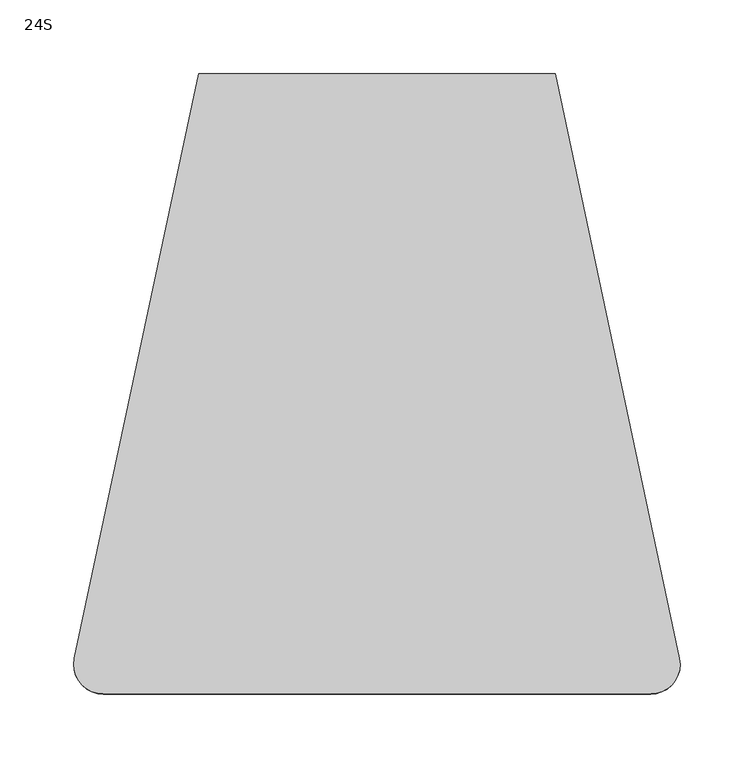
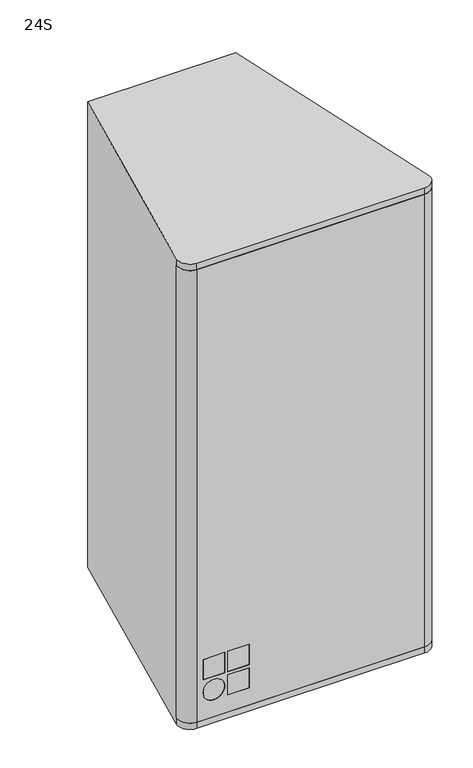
"""IFC4 building model written with IfcOpenShell, lengths in millimetres: proxy geometry, d&b xS-Series 24S Point Source : 24S."""

from ifc_helpers import new_model, si_unit, point, frame, frame_2d, origin, place, context, project, spatial, polyline, circle_curve, trimmed, segment, composite_curve, outline, extrude, source, transform, mapped, element, save
from ifc_brep_helpers import plane_surface, cylinder_surface, revolved_surface, advanced_brep


def proxy_24s_2d7f25b9(model_context):
    return source(origin(), model_context, "Body", "SolidModel", [
        extrude(outline(composite_curve([segment(polyline([(-199.714173, -185.8417662), (199.714173, -185.8417662)]), True, "CONTINUOUS"), segment(trimmed(circle_curve(frame_2d((185.3020569, -190.0)), 15.0), [point((199.714173, -185.8417662))], [point((185.3020569, -205.0))], False, "CARTESIAN"), True, "CONTINUOUS"), segment(polyline([(185.3020569, -205.0), (-185.3020569, -205.0)]), True, "CONTINUOUS"), segment(trimmed(circle_curve(frame_2d((-185.3020569, -190.0)), 15.0), [point((-185.3020569, -205.0))], [point((-199.714173, -185.8417662))], False, "CARTESIAN"), True, "CONTINUOUS")], self_intersect=False)), frame((0.0, 0.0, -389.0), z_axis=(0.0, 0.0, 1.0), x_axis=(1.0, 0.0, 0.0)), (0.0, 0.0, 1.0), 778.0),
        advanced_brep(
        [(-140.3020569, -210.0, -285.0), (-140.3020569, -205.0, -285.0), (-140.3020569, -205.0, -320.0), (-140.3020569, -210.0, -320.0), (-175.3020569, -205.0, -320.0), (-175.3020569, -210.0, -320.0), (-175.3020569, -205.0, -285.0), (-175.3020569, -210.0, -285.0), (-100.3020569, -210.0, -285.0), (-100.3020569, -205.0, -285.0), (-100.3020569, -205.0, -320.0), (-100.3020569, -210.0, -320.0), (-135.3020569, -205.0, -320.0), (-135.3020569, -210.0, -320.0), (-135.3020569, -205.0, -285.0), (-135.3020569, -210.0, -285.0), (-100.3020569, -210.0, -325.0), (-100.3020569, -205.0, -325.0), (-100.3020569, -205.0, -360.0), (-100.3020569, -210.0, -360.0), (-135.3020569, -205.0, -360.0), (-135.3020569, -210.0, -360.0), (-135.3020569, -205.0, -325.0), (-135.3020569, -210.0, -325.0), (-157.8020569, -210.0, -360.0), (-157.8020569, -205.0, -360.0), (-157.8020569, -205.0, -325.0), (-157.8020569, -210.0, -325.0), (185.3020569, -210.0, 389.0), (204.8650089, -185.8417662, 389.0), (199.714173, -185.8417662, 389.0), (185.3020569, -205.0, 389.0), (-185.3020569, -205.0, 389.0), (-199.714173, -185.8417662, 389.0), (-204.8650089, -185.8417662, 389.0), (-185.3020569, -210.0, 389.0), (185.3020569, -210.0, -389.0), (-185.3020569, -210.0, -389.0), (-204.8650089, -185.8417662, -389.0), (-199.714173, -185.8417662, -389.0), (-185.3020569, -205.0, -389.0), (185.3020569, -205.0, -389.0), (199.714173, -185.8417662, -389.0), (204.8650089, -185.8417662, -389.0)],
        [
            (0, 1),
            (1, 2),
            (2, 3),
            (3, 0),
            (2, 4),
            (4, 5),
            (5, 3),
            (4, 6),
            (6, 7),
            (7, 5),
            (0, 7),
            (6, 1),
            (8, 9),
            (9, 10),
            (10, 11),
            (11, 8),
            (10, 12),
            (12, 13),
            (13, 11),
            (12, 14),
            (14, 15),
            (15, 13),
            (8, 15),
            (14, 9),
            (16, 17),
            (17, 18),
            (18, 19),
            (19, 16),
            (18, 20),
            (20, 21),
            (21, 19),
            (20, 22),
            (22, 23),
            (23, 21),
            (16, 23),
            (22, 17),
            (24, 25),
            (25, 26, circle_curve(frame((-157.8020569, -205.0, -342.5), z_axis=(0.0, 1.0, 0.0), x_axis=(0.0, 0.0, 1.0)), 17.5)),
            (26, 27),
            (27, 24, circle_curve(frame((-157.8020569, -210.0, -342.5), z_axis=(0.0, -1.0, 0.0), x_axis=(0.0, 0.0, 1.0)), 17.5)),
            (24, 27, circle_curve(frame((-157.8020569, -210.0, -342.5), z_axis=(0.0, -1.0, 0.0), x_axis=(0.0, 0.0, 1.0)), 17.5)),
            (26, 25, circle_curve(frame((-157.8020569, -205.0, -342.5), z_axis=(0.0, 1.0, 0.0), x_axis=(0.0, 0.0, 1.0)), 17.5)),
            (28, 29, circle_curve(frame((185.3020569, -190.0, 389.0), z_axis=(0.0, 0.0, 1.0), x_axis=(0.0, -1.0, 0.0)), 20.0)),
            (29, 30),
            (30, 31, circle_curve(frame((185.3020569, -190.0, 389.0), z_axis=(0.0, 0.0, -1.0), x_axis=(0.0, -1.0, 0.0)), 15.0)),
            (31, 32),
            (32, 33, circle_curve(frame((-185.3020569, -190.0, 389.0), z_axis=(0.0, 0.0, -1.0), x_axis=(0.0, -1.0, 0.0)), 15.0)),
            (33, 34),
            (34, 35, circle_curve(frame((-185.3020569, -190.0, 389.0), z_axis=(0.0, 0.0, 1.0), x_axis=(0.0, -1.0, 0.0)), 20.0)),
            (35, 28),
            (36, 37),
            (37, 38, circle_curve(frame((-185.3020569, -190.0, -389.0), z_axis=(0.0, 0.0, -1.0), x_axis=(0.0, -1.0, 0.0)), 20.0)),
            (38, 39),
            (39, 40, circle_curve(frame((-185.3020569, -190.0, -389.0), z_axis=(0.0, 0.0, 1.0), x_axis=(0.0, -1.0, 0.0)), 15.0)),
            (40, 41),
            (41, 42, circle_curve(frame((185.3020569, -190.0, -389.0), z_axis=(0.0, 0.0, 1.0), x_axis=(0.0, -1.0, 0.0)), 15.0)),
            (42, 43),
            (43, 36, circle_curve(frame((185.3020569, -190.0, -389.0), z_axis=(0.0, 0.0, -1.0), x_axis=(0.0, -1.0, 0.0)), 20.0)),
            (28, 36),
            (43, 29),
            (42, 30),
            (41, 31),
            (40, 32),
            (39, 33),
            (38, 34),
            (37, 35),
        ],
        [
            plane_surface(frame((-140.3020569, -210.0, -320.0), z_axis=(-1.0, 0.0, 0.0), x_axis=(0.0, 1.0, 0.0))),
            plane_surface(frame((-175.3020569, -210.0, -320.0), z_axis=(0.0, 0.0, 1.0), x_axis=(0.0, 1.0, 0.0))),
            plane_surface(frame((-175.3020569, -210.0, -285.0), z_axis=(1.0, 0.0, 0.0), x_axis=(0.0, 1.0, 0.0))),
            plane_surface(frame((-140.3020569, -210.0, -285.0), z_axis=(0.0, 0.0, -1.0), x_axis=(0.0, 1.0, 0.0))),
            plane_surface(frame((-100.3020569, -210.0, -320.0), z_axis=(-1.0, 0.0, 0.0), x_axis=(0.0, 1.0, 0.0))),
            plane_surface(frame((-135.3020569, -210.0, -320.0), z_axis=(0.0, 0.0, 1.0), x_axis=(0.0, 1.0, 0.0))),
            plane_surface(frame((-135.3020569, -210.0, -285.0), z_axis=(1.0, 0.0, 0.0), x_axis=(0.0, 1.0, 0.0))),
            plane_surface(frame((-100.3020569, -210.0, -285.0), z_axis=(0.0, 0.0, -1.0), x_axis=(0.0, 1.0, 0.0))),
            plane_surface(frame((-100.3020569, -210.0, -360.0), z_axis=(-1.0, 0.0, 0.0), x_axis=(0.0, 1.0, 0.0))),
            plane_surface(frame((-135.3020569, -210.0, -360.0), z_axis=(0.0, 0.0, 1.0), x_axis=(0.0, 1.0, 0.0))),
            plane_surface(frame((-135.3020569, -210.0, -325.0), z_axis=(1.0, 0.0, 0.0), x_axis=(0.0, 1.0, 0.0))),
            plane_surface(frame((-100.3020569, -210.0, -325.0), z_axis=(0.0, 0.0, -1.0), x_axis=(0.0, 1.0, 0.0))),
            revolved_surface(polyline([(-157.8020569, -210.0, -325.0), (-157.8020569, -205.0, -325.0)]), (-157.8020569, -149.7477083, -342.5), (0.0, -1.0, 0.0)),
            plane_surface(frame((185.3020569, -210.0, 389.0), z_axis=(0.0, 0.0, 1.0), x_axis=(1.0, 0.0, 0.0))),
            plane_surface(frame((185.3020569, -210.0, -389.0), z_axis=(0.0, 0.0, -1.0), x_axis=(-1.0, 0.0, 0.0))),
            cylinder_surface(frame((185.3020569, -190.0, -389.0), z_axis=(0.0, 0.0, 1.0), x_axis=(0.0, -1.0, 0.0)), 20.0),
            plane_surface(frame((204.8650089, -185.8417662, 389.0), z_axis=(0.0, 1.0, 0.0), x_axis=(0.0, 0.0, -1.0))),
            revolved_surface(polyline([(185.3020569, -205.0, -389.0), (185.3020569, -205.0, 389.0)]), (185.3020569, -190.0, -389.0), (0.0, 0.0, -1.0)),
            plane_surface(frame((185.3020569, -205.0, 389.0), z_axis=(0.0, 1.0, 0.0), x_axis=(0.0, 0.0, -1.0))),
            revolved_surface(polyline([(-185.3020569, -205.0, -389.0), (-185.3020569, -205.0, 389.0)]), (-185.3020569, -190.0, -389.0), (0.0, 0.0, -1.0)),
            plane_surface(frame((-199.714173, -185.8417662, 389.0), z_axis=(0.0, 1.0, 0.0), x_axis=(0.0, 0.0, -1.0))),
            cylinder_surface(frame((-185.3020569, -190.0, -389.0), z_axis=(0.0, 0.0, 1.0), x_axis=(0.0, -1.0, 0.0)), 20.0),
            plane_surface(frame((-185.3020569, -210.0, 389.0), z_axis=(0.0, -1.0, 0.0), x_axis=(0.0, 0.0, -1.0))),
        ],
        [
            (0, [[1, 2, 3, 4]]),
            (1, [[-3, 5, 6, 7]]),
            (2, [[-6, 8, 9, 10]]),
            (3, [[-1, 11, -9, 12]]),
            (4, [[13, 14, 15, 16]]),
            (5, [[-15, 17, 18, 19]]),
            (6, [[-18, 20, 21, 22]]),
            (7, [[-13, 23, -21, 24]]),
            (8, [[25, 26, 27, 28]]),
            (9, [[-27, 29, 30, 31]]),
            (10, [[-30, 32, 33, 34]]),
            (11, [[-25, 35, -33, 36]]),
            (12, [[37, 38, 39, 40]]),
            (12, [[-37, 41, -39, 42]]),
            (13, [[43, 44, 45, 46, 47, 48, 49, 50]]),
            (14, [[51, 52, 53, 54, 55, 56, 57, 58]]),
            (15, [[-43, 59, -58, 60]]),
            (16, [[-44, -60, -57, 61]]),
            (17, [[-45, -61, -56, 62]]),
            (18, [[-46, -62, -55, 63], [-2, -12, -8, -5], [-14, -24, -20, -17], [-26, -36, -32, -29], [-38, -42]]),
            (19, [[-47, -63, -54, 64]]),
            (20, [[-48, -64, -53, 65]]),
            (21, [[-49, -65, -52, 66]]),
            (22, [[-50, -66, -51, -59], [-4, -7, -10, -11], [-16, -19, -22, -23], [-28, -31, -34, -35], [-40, -41]]),
        ],
    ),
        extrude(outline(polyline([(-140.3020569, -210.0), (-175.3020569, -210.0), (-175.3020569, -205.0), (-140.3020569, -205.0), (-140.3020569, -210.0)])), frame((0.0, 0.0, -320.0), z_axis=(0.0, 0.0, 1.0), x_axis=(1.0, 0.0, 0.0)), (0.0, 0.0, 1.0), 35.0),
        extrude(outline(polyline([(-100.3020569, -210.0), (-135.3020569, -210.0), (-135.3020569, -205.0), (-100.3020569, -205.0), (-100.3020569, -210.0)])), frame((0.0, 0.0, -320.0), z_axis=(0.0, 0.0, 1.0), x_axis=(1.0, 0.0, 0.0)), (0.0, 0.0, 1.0), 35.0),
        extrude(outline(polyline([(-100.3020569, -210.0), (-135.3020569, -210.0), (-135.3020569, -205.0), (-100.3020569, -205.0), (-100.3020569, -210.0)])), frame((0.0, 0.0, -360.0), z_axis=(0.0, 0.0, 1.0), x_axis=(1.0, 0.0, 0.0)), (0.0, 0.0, 1.0), 35.0),
        extrude(outline(composite_curve([segment(trimmed(circle_curve(frame_2d((-342.5, -157.8020569)), 17.5), [point((-360.0, -157.8020569))], [point((-325.0, -157.8020569))], False, "CARTESIAN"), True, "CONTINUOUS"), segment(trimmed(circle_curve(frame_2d((-342.5, -157.8020569)), 17.5), [point((-325.0, -157.8020569))], [point((-360.0, -157.8020569))], False, "CARTESIAN"), True, "CONTINUOUS")], self_intersect=False)), frame((0.0, -210.0, 0.0), z_axis=(0.0, 1.0, 0.0), x_axis=(0.0, 0.0, 1.0)), (0.0, 0.0, 1.0), 5.0),
        advanced_brep(
        [(120.7262441, 210.0, -400.0), (204.8650089, -185.8417662, -400.0), (185.3020569, -210.0, -400.0), (-185.3020569, -210.0, -400.0), (-204.8650089, -185.8417662, -400.0), (-120.7262441, 210.0, -400.0), (120.7262441, 210.0, 400.0), (-120.7262441, 210.0, 400.0), (-204.8650089, -185.8417662, 400.0), (-185.3020569, -210.0, 400.0), (185.3020569, -210.0, 400.0), (204.8650089, -185.8417662, 400.0), (-35.0, 207.0, 171.5), (-26.0, 207.0, 180.5), (26.0, 207.0, 180.5), (35.0, 207.0, 171.5), (35.0, 207.0, 78.5), (26.0, 207.0, 69.5), (-26.0, 207.0, 69.5), (-35.0, 207.0, 78.5), (-25.9695321, 207.0, 86.5), (-13.9695321, 207.0, 74.5), (13.9695321, 207.0, 74.5), (25.9695321, 207.0, 86.5), (25.9695321, 207.0, 130.5), (-25.9695321, 207.0, 130.5), (-35.0, 210.0, 171.5), (-26.0, 210.0, 180.5), (26.0, 210.0, 180.5), (35.0, 210.0, 171.5), (35.0, 210.0, 78.5), (26.0, 210.0, 69.5), (-26.0, 210.0, 69.5), (-35.0, 210.0, 78.5), (-13.9695321, 191.0, 74.5), (-25.9695321, 191.0, 86.5), (-25.9695321, 191.0, 130.5), (25.9695321, 191.0, 130.5), (25.9695321, 191.0, 86.5), (13.9695321, 191.0, 74.5), (185.3020569, -210.0, 389.0), (-185.3020569, -210.0, 389.0), (-204.8650089, -185.8417662, 389.0), (204.8650089, -185.8417662, 389.0), (204.8650089, -185.8417662, -389.0), (-204.8650089, -185.8417662, -389.0), (185.3020569, -210.0, -389.0), (-185.3020569, -210.0, -389.0)],
        [
            (0, 1),
            (1, 2, circle_curve(frame((185.3020569, -190.0, -400.0), z_axis=(0.0, 0.0, -1.0), x_axis=(0.0, -1.0, 0.0)), 20.0)),
            (2, 3),
            (3, 4, circle_curve(frame((-185.3020569, -190.0, -400.0), z_axis=(0.0, 0.0, -1.0), x_axis=(0.0, -1.0, 0.0)), 20.0)),
            (4, 5),
            (5, 0),
            (6, 7),
            (7, 8),
            (8, 9, circle_curve(frame((-185.3020569, -190.0, 400.0), z_axis=(0.0, 0.0, 1.0), x_axis=(0.0, -1.0, 0.0)), 20.0)),
            (9, 10),
            (10, 11, circle_curve(frame((185.3020569, -190.0, 400.0), z_axis=(0.0, 0.0, 1.0), x_axis=(0.0, -1.0, 0.0)), 20.0)),
            (11, 6),
            (12, 13, circle_curve(frame((-26.0, 207.0, 171.5), z_axis=(0.0, 1.0, 0.0), x_axis=(-1.0, 0.0, 0.0)), 9.0)),
            (13, 14),
            (14, 15, circle_curve(frame((26.0, 207.0, 171.5), z_axis=(0.0, 1.0, 0.0), x_axis=(-1.0, 0.0, 0.0)), 9.0)),
            (15, 16),
            (16, 17, circle_curve(frame((26.0, 207.0, 78.5), z_axis=(0.0, 1.0, 0.0), x_axis=(-1.0, 0.0, 0.0)), 9.0)),
            (17, 18),
            (18, 19, circle_curve(frame((-26.0, 207.0, 78.5), z_axis=(0.0, 1.0, 0.0), x_axis=(-1.0, 0.0, 0.0)), 9.0)),
            (19, 12),
            (20, 21, circle_curve(frame((-13.9695321, 207.0, 86.5), z_axis=(0.0, -1.0, 0.0), x_axis=(-1.0, 0.0, 0.0)), 12.0)),
            (21, 22),
            (22, 23, circle_curve(frame((13.9695321, 207.0, 86.5), z_axis=(0.0, -1.0, 0.0), x_axis=(-1.0, 0.0, 0.0)), 12.0)),
            (23, 24),
            (24, 25),
            (25, 20),
            (12, 26),
            (26, 27, circle_curve(frame((-26.0, 210.0, 171.5), z_axis=(0.0, 1.0, 0.0), x_axis=(-1.0, 0.0, 0.0)), 9.0)),
            (27, 13),
            (27, 28),
            (28, 14),
            (28, 29, circle_curve(frame((26.0, 210.0, 171.5), z_axis=(0.0, 1.0, 0.0), x_axis=(-1.0, 0.0, 0.0)), 9.0)),
            (29, 15),
            (29, 30),
            (30, 16),
            (30, 31, circle_curve(frame((26.0, 210.0, 78.5), z_axis=(0.0, 1.0, 0.0), x_axis=(-1.0, 0.0, 0.0)), 9.0)),
            (31, 17),
            (31, 32),
            (32, 18),
            (32, 33, circle_curve(frame((-26.0, 210.0, 78.5), z_axis=(0.0, 1.0, 0.0), x_axis=(-1.0, 0.0, 0.0)), 9.0)),
            (33, 19),
            (33, 26),
            (34, 35, circle_curve(frame((-13.9695321, 191.0, 86.5), z_axis=(0.0, 1.0, 0.0), x_axis=(-1.0, 0.0, 0.0)), 12.0)),
            (35, 36),
            (36, 37),
            (37, 38),
            (38, 39, circle_curve(frame((13.9695321, 191.0, 86.5), z_axis=(0.0, 1.0, 0.0), x_axis=(-1.0, 0.0, 0.0)), 12.0)),
            (39, 34),
            (40, 41),
            (41, 42, circle_curve(frame((-185.3020569, -190.0, 389.0), z_axis=(0.0, 0.0, -1.0), x_axis=(0.0, -1.0, 0.0)), 20.0)),
            (42, 43),
            (43, 40, circle_curve(frame((185.3020569, -190.0, 389.0), z_axis=(0.0, 0.0, -1.0), x_axis=(0.0, -1.0, 0.0)), 20.0)),
            (0, 6),
            (11, 43),
            (43, 44),
            (44, 1),
            (42, 45),
            (45, 44),
            (4, 45),
            (42, 8),
            (7, 5),
            (10, 40),
            (9, 41),
            (34, 21),
            (20, 35),
            (25, 36),
            (24, 37),
            (23, 38),
            (22, 39),
            (46, 44, circle_curve(frame((185.3020569, -190.0, -389.0), z_axis=(0.0, 0.0, 1.0), x_axis=(0.0, -1.0, 0.0)), 20.0)),
            (45, 47, circle_curve(frame((-185.3020569, -190.0, -389.0), z_axis=(0.0, 0.0, 1.0), x_axis=(0.0, -1.0, 0.0)), 20.0)),
            (47, 46),
            (46, 2),
            (3, 47),
        ],
        [
            plane_surface(frame((204.8650089, -185.8417662, -400.0), z_axis=(0.0, 0.0, -1.0000000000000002), x_axis=(0.2079116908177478, -0.9781476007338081, 0.0))),
            plane_surface(frame((204.8650089, -185.8417662, 400.0), z_axis=(0.0, 0.0, 1.0000000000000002), x_axis=(-0.2079116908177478, 0.9781476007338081, 0.0))),
            plane_surface(frame((-35.0, 207.0, 171.5), z_axis=(0.0, 1.0, 0.0), x_axis=(0.0, 0.0, -1.0))),
            revolved_surface(polyline([(-35.0, 210.0, 171.5), (-35.0, 207.0, 171.5)]), (-26.0, 207.0, 171.5), (0.0, 1.0, 0.0)),
            plane_surface(frame((-26.0, 210.0, 180.5), z_axis=(0.0, 0.0, -1.0), x_axis=(0.0, -1.0, 0.0))),
            revolved_surface(polyline([(17.0, 210.0, 171.5), (17.0, 207.0, 171.5)]), (26.0, 207.0, 171.5), (0.0, 1.0, 0.0)),
            plane_surface(frame((35.0, 210.0, 171.5), z_axis=(-1.0, 0.0, 0.0), x_axis=(0.0, -1.0, 0.0))),
            revolved_surface(polyline([(17.0, 210.0, 78.5), (17.0, 207.0, 78.5)]), (26.0, 207.0, 78.5), (0.0, 1.0, 0.0)),
            plane_surface(frame((26.0, 210.0, 69.5), z_axis=(0.0, 0.0, 1.0), x_axis=(0.0, -1.0, 0.0))),
            revolved_surface(polyline([(-35.0, 210.0, 78.5), (-35.0, 207.0, 78.5)]), (-26.0, 207.0, 78.5), (0.0, 1.0, 0.0)),
            plane_surface(frame((-35.0, 210.0, 78.5), z_axis=(1.0, 0.0, 0.0), x_axis=(0.0, -1.0, 0.0))),
            plane_surface(frame((-25.9695321, 191.0, 86.5), z_axis=(0.0, 1.0, 0.0), x_axis=(0.0, 0.0, -1.0))),
            plane_surface(frame((185.3020569, -210.0, 389.0), z_axis=(0.0, 0.0, -1.0), x_axis=(-1.0, 0.0, 0.0))),
            plane_surface(frame((120.7262441, 210.0, -400.0), z_axis=(0.9781476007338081, 0.2079116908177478, 0.0), x_axis=(0.0, 0.0, 1.0))),
            plane_surface(frame((204.8650089, -185.8417662, -400.0), z_axis=(0.0, -1.0, 0.0), x_axis=(0.0, 0.0, 1.0))),
            plane_surface(frame((-204.8650089, -185.8417662, -400.0), z_axis=(-0.9781476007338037, 0.20791169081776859, 0.0), x_axis=(0.0, 0.0, 1.0))),
            plane_surface(frame((-120.7262441, 210.0, -400.0), z_axis=(0.0, 1.0, 0.0), x_axis=(0.0, 0.0, 1.0))),
            cylinder_surface(frame((185.3020569, -190.0, 389.0), z_axis=(0.0, 0.0, 1.0), x_axis=(0.0, -1.0, 0.0)), 20.0),
            plane_surface(frame((-185.3020569, -210.0, 400.0), z_axis=(0.0, -1.0, 0.0), x_axis=(0.0, 0.0, -1.0))),
            revolved_surface(polyline([(-25.969532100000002, 207.0, 86.5), (-25.969532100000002, 191.0, 86.5)]), (-13.9695321, 191.0, 86.5), (0.0, 1.0, 0.0)),
            plane_surface(frame((-25.9695321, 210.0, 86.5), z_axis=(1.0, 0.0, 0.0), x_axis=(0.0, -1.0, 0.0))),
            plane_surface(frame((-25.9695321, 210.0, 130.5), z_axis=(0.0, 0.0, -1.0), x_axis=(0.0, -1.0, 0.0))),
            plane_surface(frame((25.9695321, 210.0, 130.5), z_axis=(-1.0, 0.0, 0.0), x_axis=(0.0, -1.0, 0.0))),
            revolved_surface(polyline([(1.9695321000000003, 207.0, 86.5), (1.9695321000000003, 191.0, 86.5)]), (13.9695321, 191.0, 86.5), (0.0, 1.0, 0.0)),
            plane_surface(frame((13.9695321, 210.0, 74.5), z_axis=(0.0, 0.0, 1.0), x_axis=(0.0, -1.0, 0.0))),
            plane_surface(frame((185.3020569, -210.0, -389.0), z_axis=(0.0, 0.0, 1.0), x_axis=(1.0, 0.0, 0.0))),
            cylinder_surface(frame((-185.3020569, -190.0, 389.0), z_axis=(0.0, 0.0, 1.0), x_axis=(0.0, -1.0, 0.0)), 20.0),
            cylinder_surface(frame((185.3020569, -190.0, -400.0), z_axis=(0.0, 0.0, 1.0), x_axis=(0.0, -1.0, 0.0)), 20.0),
            cylinder_surface(frame((-185.3020569, -190.0, -400.0), z_axis=(0.0, 0.0, 1.0), x_axis=(0.0, -1.0, 0.0)), 20.0),
            plane_surface(frame((-185.3020569, -210.0, -389.0), z_axis=(0.0, -1.0, 0.0), x_axis=(0.0, 0.0, -1.0))),
        ],
        [
            (0, [[1, 2, 3, 4, 5, 6]]),
            (1, [[7, 8, 9, 10, 11, 12]]),
            (2, [[13, 14, 15, 16, 17, 18, 19, 20], [21, 22, 23, 24, 25, 26]]),
            (3, [[-13, 27, 28, 29]]),
            (4, [[-14, -29, 30, 31]]),
            (5, [[-15, -31, 32, 33]]),
            (6, [[-16, -33, 34, 35]]),
            (7, [[-17, -35, 36, 37]]),
            (8, [[-18, -37, 38, 39]]),
            (9, [[-19, -39, 40, 41]]),
            (10, [[-20, -41, 42, -27]]),
            (11, [[43, 44, 45, 46, 47, 48]]),
            (12, [[49, 50, 51, 52]]),
            (13, [[-1, 53, -12, 54, 55, 56]]),
            (14, [[-51, 57, 58, -55]]),
            (15, [[-5, 59, -57, 60, -8, 61]]),
            (16, [[-6, -61, -7, -53], [-28, -42, -40, -38, -36, -34, -32, -30]]),
            (17, [[-11, 62, -52, -54]]),
            (18, [[-10, 63, -49, -62]]),
            (19, [[-43, 64, -21, 65]]),
            (20, [[-44, -65, -26, 66]]),
            (21, [[-45, -66, -25, 67]]),
            (22, [[-46, -67, -24, 68]]),
            (23, [[-47, -68, -23, 69]]),
            (24, [[-48, -69, -22, -64]]),
            (25, [[70, -58, 71, 72]]),
            (26, [[-9, -60, -50, -63]]),
            (27, [[-70, 73, -2, -56]]),
            (28, [[-71, -59, -4, 74]]),
            (29, [[-72, -74, -3, -73]]),
        ],
    ),
    ])


if __name__ == "__main__":
    model = new_model("IFC4")
    model_context = context("Model", 3, world=origin())
    ifc_project = project(units=[si_unit("LENGTHUNIT", "METRE", prefix="MILLI")], contexts=[model_context])
    site = spatial("IfcSite", under=ifc_project)
    building = spatial("IfcBuilding", under=site)
    placement = place(None, origin())
    proxy_24s_shape = proxy_24s_2d7f25b9(model_context)
    element("IfcBuildingElementProxy", 1, Name="d&b xS-Series 24S Point Source : 24S", ObjectType="d&b xS-Series 24S Point Source : 24S", at=placement, inside=building, context=model_context, shape_type="MappedRepresentation", body=[
        mapped(proxy_24s_shape, transform((0.0, 0.0, 0.0), x_axis=(1.0, 0.0, 0.0), y_axis=(0.0, 1.0, 0.0), z_axis=(0.0, 0.0, 1.0))),
    ])
    save(model, "model.ifc")
